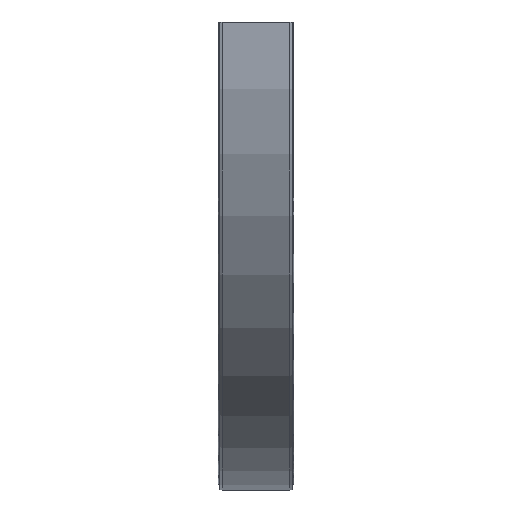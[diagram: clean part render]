
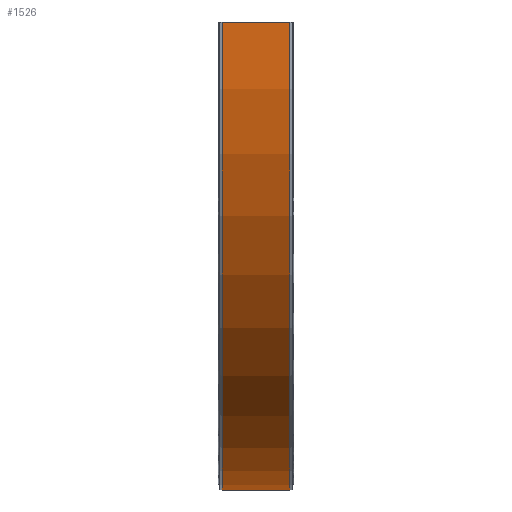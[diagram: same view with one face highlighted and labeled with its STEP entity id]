
A CAD part, left-side view. The second image highlights one B-rep face of the part: STEP entity #1526.
In plain terms, the highlighted cylindrical face has radius 902.5 mm (diameter 1805 mm), a partial arc.
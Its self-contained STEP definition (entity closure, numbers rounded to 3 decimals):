
#80=CYLINDRICAL_SURFACE('',#1643,902.5);
#149=FACE_OUTER_BOUND('',#236,.T.);
#236=EDGE_LOOP('',(#1052,#1053,#1054,#1055));
#323=CIRCLE('',#1633,902.5);
#328=CIRCLE('',#1642,902.5);
#400=LINE('',#2215,#526);
#401=LINE('',#2216,#527);
#526=VECTOR('',#1808,10.);
#527=VECTOR('',#1809,10.);
#643=VERTEX_POINT('',#2183);
#644=VERTEX_POINT('',#2185);
#652=VERTEX_POINT('',#2209);
#653=VERTEX_POINT('',#2211);
#799=EDGE_CURVE('',#643,#644,#323,.T.);
#813=EDGE_CURVE('',#652,#653,#328,.T.);
#814=EDGE_CURVE('',#643,#652,#400,.T.);
#815=EDGE_CURVE('',#644,#653,#401,.T.);
#1052=ORIENTED_EDGE('',*,*,#814,.T.);
#1053=ORIENTED_EDGE('',*,*,#813,.T.);
#1054=ORIENTED_EDGE('',*,*,#815,.F.);
#1055=ORIENTED_EDGE('',*,*,#799,.F.);
#1526=ADVANCED_FACE('',(#149),#80,.T.);
#1633=AXIS2_PLACEMENT_3D('',#2186,#1777,#1778);
#1642=AXIS2_PLACEMENT_3D('',#2213,#1804,#1805);
#1643=AXIS2_PLACEMENT_3D('',#2214,#1806,#1807);
#1777=DIRECTION('center_axis',(0.,1.,0.));
#1778=DIRECTION('ref_axis',(0.,0.,-1.));
#1804=DIRECTION('center_axis',(0.,1.,0.));
#1805=DIRECTION('ref_axis',(0.,0.,-1.));
#1806=DIRECTION('center_axis',(0.,1.,0.));
#1807=DIRECTION('ref_axis',(0.,0.,-1.));
#1808=DIRECTION('',(0.,-1.,0.));
#1809=DIRECTION('',(0.,-1.,0.));
#2183=CARTESIAN_POINT('',(0.,65.,-42.5));
#2185=CARTESIAN_POINT('',(-902.5,65.,860.));
#2186=CARTESIAN_POINT('Origin',(0.,65.,860.));
#2209=CARTESIAN_POINT('',(0.,-65.,-42.5));
#2211=CARTESIAN_POINT('',(-902.5,-65.,860.));
#2213=CARTESIAN_POINT('Origin',(0.,-65.,860.));
#2214=CARTESIAN_POINT('Origin',(0.,0.,860.));
#2215=CARTESIAN_POINT('',(0.,65.,-42.5));
#2216=CARTESIAN_POINT('',(-902.5,65.,860.));
